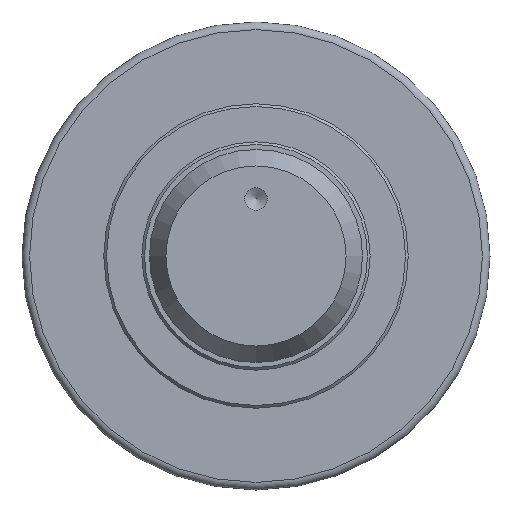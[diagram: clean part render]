
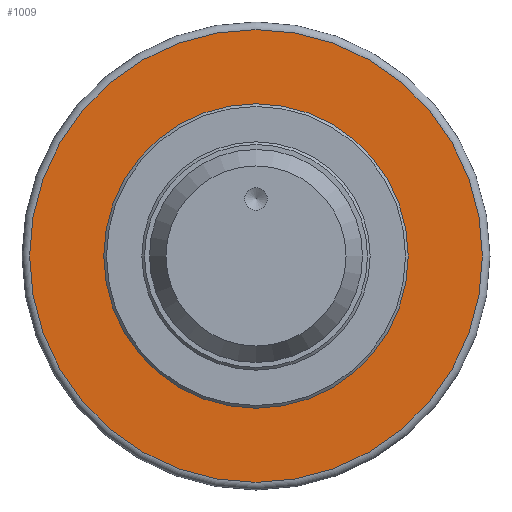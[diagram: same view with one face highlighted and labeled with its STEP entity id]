
A CAD part, left-side view. The second image highlights one B-rep face of the part: STEP entity #1009.
In plain terms, the highlighted planar face has unit normal (-1, 0, 0).
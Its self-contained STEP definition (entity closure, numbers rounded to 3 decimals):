
#28=FACE_BOUND('',#168,.T.);
#43=PLANE('',#1115);
#104=FACE_OUTER_BOUND('',#167,.T.);
#167=EDGE_LOOP('',(#724));
#168=EDGE_LOOP('',(#725));
#421=CIRCLE('',#1111,59.5);
#424=CIRCLE('',#1116,39.);
#463=VERTEX_POINT('',#1587);
#466=VERTEX_POINT('',#1597);
#562=EDGE_CURVE('',#463,#463,#421,.T.);
#566=EDGE_CURVE('',#466,#466,#424,.T.);
#724=ORIENTED_EDGE('',*,*,#562,.F.);
#725=ORIENTED_EDGE('',*,*,#566,.T.);
#1009=ADVANCED_FACE('',(#104,#28),#43,.T.);
#1111=AXIS2_PLACEMENT_3D('',#1589,#1253,#1254);
#1115=AXIS2_PLACEMENT_3D('',#1596,#1262,#1263);
#1116=AXIS2_PLACEMENT_3D('',#1598,#1264,#1265);
#1253=DIRECTION('center_axis',(1.,0.,0.));
#1254=DIRECTION('ref_axis',(0.,-1.,0.));
#1262=DIRECTION('center_axis',(-1.,0.,0.));
#1263=DIRECTION('ref_axis',(0.,0.,1.));
#1264=DIRECTION('center_axis',(1.,0.,0.));
#1265=DIRECTION('ref_axis',(0.,1.,0.));
#1587=CARTESIAN_POINT('',(-42.,0.,59.5));
#1589=CARTESIAN_POINT('Origin',(-42.,0.,0.));
#1596=CARTESIAN_POINT('Origin',(-42.,50.25,0.));
#1597=CARTESIAN_POINT('',(-42.,-39.,0.));
#1598=CARTESIAN_POINT('Origin',(-42.,0.,0.));
